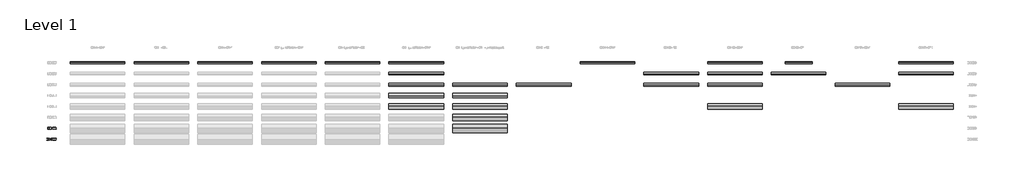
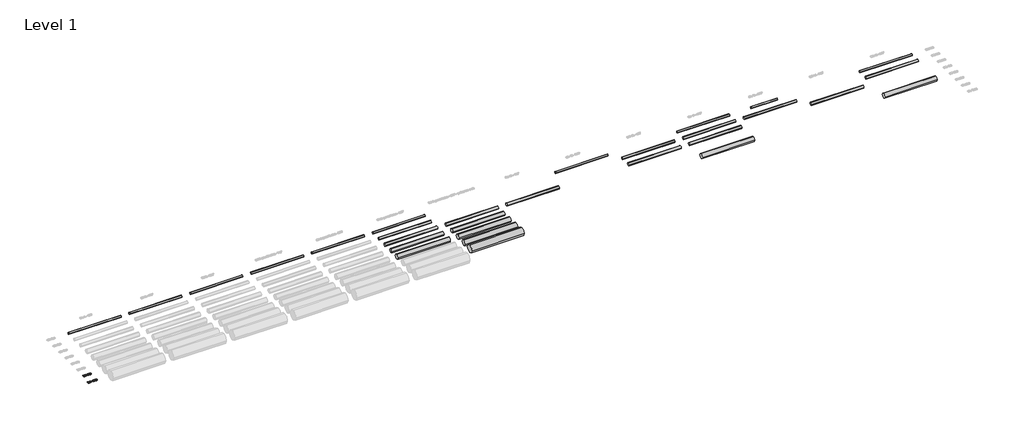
# One storey, part 2 of 10: 29 pipe segments, 2 proxies.
"""IFC4 building model written with IfcOpenShell, lengths in millimetres."""

from ifc_helpers import new_model, si_unit, point, frame, frame_2d, origin, origin_with_axes, place, context, project, spatial, polyline, circle_curve, trimmed, segment, composite_curve, outline, extrude, element, save

model = new_model("IFC4")

# Units and contexts
model_context = context("Model", 3, world=origin())
ifc_project = project(units=[si_unit("LENGTHUNIT", "METRE", prefix="MILLI")], contexts=[model_context])

# Site, building, storey
site = spatial("IfcSite", under=ifc_project)
building = spatial("IfcBuilding", under=site)
storey = spatial("IfcBuildingStorey", under=building, Name="Level 1", Elevation=0.0)

# Proxies
placement = place(None, origin())
element("IfcBuildingElementProxy", 1, Name="200mm Arial", ObjectType="200mm Arial", at=placement, inside=storey, context=model_context, shape_type="SweptSolid", body=[
    extrude(outline(polyline([(-19491.3116028, -6713.949573), (-19491.3116028, -6513.0369527), (-19422.0026349, -6513.0369527), (-19386.1464031, -6515.9309577), (-19370.1312736, -6521.5105013), (-19356.6177416, -6530.302881), (-19342.724065, -6545.606772), (-19332.8280393, -6564.6385338), (-19326.9051392, -6587.0302846), (-19324.9308391, -6612.4141423), (-19330.2773908, -6652.9547382), (-19344.0116519, -6682.2136195), (-19362.3567008, -6700.436041), (-19386.3671323, -6710.5160077), (-19418.6671715, -6713.949573), (-19491.3116028, -6713.949573)]), holes=[polyline([(-19466.1975253, -6688.8354954), (-19421.7573803, -6688.8354954), (-19389.4328156, -6685.2057264), (-19370.7934612, -6674.9540815), (-19362.0685265, -6664.0831685), (-19355.5140957, -6650.0116822), (-19351.4122114, -6632.6783089), (-19350.0449167, -6612.0217348), (-19352.7243239, -6584.6513144), (-19360.7625455, -6564.4423301), (-19372.6390025, -6550.5609162), (-19386.8331162, -6542.1732067), (-19422.4440933, -6538.1510302), (-19466.1975253, -6538.1510302), (-19466.1975253, -6688.8354954)])]), origin_with_axes(), (0.0, 0.0, 1.0), 50.0),
    extrude(outline(polyline([(-19290.3989825, -6713.949573), (-19290.3989825, -6513.0369527), (-19263.5190714, -6513.0369527), (-19158.5500754, -6672.2072292), (-19158.5500754, -6513.0369527), (-19133.4359979, -6513.0369527), (-19133.4359979, -6713.949573), (-19160.315909, -6713.949573), (-19265.284905, -6554.7302454), (-19265.284905, -6713.949573), (-19290.3989825, -6713.949573)])), origin_with_axes(), (0.0, 0.0, 1.0), 50.0),
    extrude(outline(polyline([(-18983.8306532, -6603.2906688), (-18997.2767401, -6596.6687929), (-19006.7129133, -6587.6924722), (-19012.2863255, -6576.5456478), (-19014.1441296, -6563.4122605), (-19010.0974277, -6543.7796247), (-18997.9573218, -6527.5560287), (-18979.0849755, -6516.6667217), (-18954.841552, -6513.0369527), (-18930.4509757, -6516.7525608), (-18911.3333747, -6527.8993853), (-18898.9725396, -6544.3804986), (-18894.8522613, -6564.0989736), (-18896.6855399, -6576.8092965), (-18902.1853757, -6587.7660486), (-18911.4130824, -6596.687187), (-18924.4299737, -6603.2906688), (-18908.9727985, -6611.255314), (-18897.7217409, -6622.9846183), (-18890.8607417, -6637.9144959), (-18888.5737419, -6655.4808612), (-18893.1109532, -6679.4912927), (-18906.722587, -6699.332395), (-18927.7409117, -6712.6497232), (-18954.4981955, -6717.0888326), (-18981.2554792, -6712.6313291), (-19002.2738039, -6699.2588186), (-19015.8854377, -6679.227644), (-19020.422649, -6654.7941481), (-19018.0436788, -6636.5472012), (-19010.906768, -6621.5376158), (-18999.3797989, -6610.2804267), (-18983.8306532, -6603.2906688)]), holes=[polyline([(-18995.3085714, -6653.9112313), (-18991.1147167, -6672.8203659), (-18985.3083125, -6680.9321639), (-18976.2768096, -6686.97156), (-18954.3019917, -6691.9747551), (-18937.2077417, -6689.3443988), (-18924.3809228, -6681.45333), (-18916.3610953, -6669.5032966), (-18913.6878195, -6654.6960463), (-18916.4469344, -6639.6374099), (-18924.7242793, -6627.4237277), (-18937.8454038, -6619.3303238), (-18955.1358576, -6616.6325225), (-18971.9909843, -6619.2935356), (-18984.6890445, -6627.2765749), (-18992.6536897, -6639.2572652), (-18995.3085714, -6653.9112313)]), polyline([(-18989.0300521, -6564.1480245), (-18986.804366, -6575.110908), (-18980.1273078, -6583.8664995), (-18969.1950812, -6589.6054586), (-18954.2038899, -6591.518445), (-18939.5621864, -6589.6177213), (-18928.7955067, -6583.9155504), (-18922.1736308, -6575.4542645), (-18919.9663388, -6565.276196), (-18922.2472072, -6554.7118513), (-18929.0898123, -6545.974654), (-18940.0036448, -6540.1069361), (-18954.4981955, -6538.1510302), (-18969.0847166, -6540.0640166), (-18979.980155, -6545.8029757), (-18986.7675778, -6554.2152106), (-18989.0300521, -6564.1480245)])]), origin_with_axes(), (0.0, 0.0, 1.0), 50.0),
    extrude(outline(polyline([(-18866.5989241, -6615.1119436), (-18864.7533827, -6582.9529258), (-18859.2167587, -6557.3054194), (-18850.0442343, -6537.7770168), (-18837.2909918, -6523.9753106), (-18820.8650607, -6515.7715422), (-18800.6744705, -6513.0369527), (-18785.1989013, -6514.6556334), (-18771.3420128, -6519.5116758), (-18759.7537299, -6527.4150073), (-18751.0839776, -6538.1755557), (-18739.3117537, -6567.9004209), (-18734.750017, -6615.1119436), (-18736.5771642, -6647.0870203), (-18742.058606, -6672.6732131), (-18751.1759481, -6692.2200098), (-18763.9107965, -6706.0768983), (-18780.3735158, -6714.335849), (-18800.6744705, -6717.0888326), (-18826.7695667, -6712.3063667), (-18846.5861435, -6697.9589689), (-18855.341735, -6682.8298218), (-18861.5957289, -6663.9789353), (-18866.5989241, -6615.1119436)]), holes=[polyline([(-18841.4848465, -6615.0628927), (-18838.5417906, -6654.5672876), (-18829.7126227, -6677.4311536), (-18816.5669727, -6688.3388547), (-18800.6744705, -6691.9747551), (-18784.7819683, -6688.326592), (-18771.6363184, -6677.3821026), (-18762.8071505, -6654.5059739), (-18759.8640945, -6615.0628927), (-18762.7090486, -6576.4475459), (-18771.2439109, -6553.4058703), (-18784.3650354, -6541.9647402), (-18800.9687761, -6538.1510302), (-18816.6896001, -6541.5110191), (-18829.3202152, -6551.5909857), (-18838.4436887, -6576.0674012), (-18841.4848465, -6615.0628927)])]), origin_with_axes(), (0.0, 0.0, 1.0), 50.0),
    extrude(outline(polyline([(-18712.7751992, -6615.1119436), (-18710.9296578, -6582.9529258), (-18705.3930338, -6557.3054194), (-18696.2205094, -6537.7770168), (-18683.4672669, -6523.9753106), (-18667.0413358, -6515.7715422), (-18646.8507456, -6513.0369527), (-18631.3751764, -6514.6556334), (-18617.5182879, -6519.5116758), (-18605.930005, -6527.4150073), (-18597.2602527, -6538.1755557), (-18585.4880288, -6567.9004209), (-18580.9262921, -6615.1119436), (-18582.7534393, -6647.0870203), (-18588.2348811, -6672.6732131), (-18597.3522232, -6692.2200098), (-18610.0870716, -6706.0768983), (-18626.5497909, -6714.335849), (-18646.8507456, -6717.0888326), (-18672.9458418, -6712.3063667), (-18692.7624186, -6697.9589689), (-18701.5180101, -6682.8298218), (-18707.772004, -6663.9789353), (-18712.7751992, -6615.1119436)]), holes=[polyline([(-18687.6611216, -6615.0628927), (-18684.7180657, -6654.5672876), (-18675.8888978, -6677.4311536), (-18662.7432478, -6688.3388547), (-18646.8507456, -6691.9747551), (-18630.9582434, -6688.326592), (-18617.8125935, -6677.3821026), (-18608.9834256, -6654.5059739), (-18606.0403696, -6615.0628927), (-18608.8853237, -6576.4475459), (-18617.420186, -6553.4058703), (-18630.5413105, -6541.9647402), (-18647.1450512, -6538.1510302), (-18662.8658751, -6541.5110191), (-18675.4964903, -6551.5909857), (-18684.6199638, -6576.0674012), (-18687.6611216, -6615.0628927)])]), origin_with_axes(), (0.0, 0.0, 1.0), 50.0),
])
element("IfcBuildingElementProxy", 2, Name="200mm Arial", ObjectType="200mm Arial", at=placement, inside=storey, context=model_context, shape_type="SweptSolid", body=[
    extrude(outline(polyline([(-19645.1353277, -7913.949573), (-19645.1353277, -7713.0369527), (-19575.8263598, -7713.0369527), (-19539.970128, -7715.9309577), (-19523.9549985, -7721.5105013), (-19510.4414666, -7730.302881), (-19496.5477899, -7745.606772), (-19486.6517642, -7764.6385338), (-19480.7288641, -7787.0302846), (-19478.754564, -7812.4141423), (-19484.1011157, -7852.9547382), (-19497.8353769, -7882.2136195), (-19516.1804257, -7900.436041), (-19540.1908572, -7910.5160077), (-19572.4908964, -7913.949573), (-19645.1353277, -7913.949573)]), holes=[polyline([(-19620.0212502, -7888.8354954), (-19575.5811052, -7888.8354954), (-19543.2565405, -7885.2057264), (-19524.6171861, -7874.9540815), (-19515.8922515, -7864.0831685), (-19509.3378206, -7850.0116822), (-19505.2359363, -7832.6783089), (-19503.8686416, -7812.0217348), (-19506.5480488, -7784.6513144), (-19514.5862704, -7764.4423301), (-19526.4627275, -7750.5609162), (-19540.6568411, -7742.1732067), (-19576.2678182, -7738.1510302), (-19620.0212502, -7738.1510302), (-19620.0212502, -7888.8354954)])]), origin_with_axes(), (0.0, 0.0, 1.0), 50.0),
    extrude(outline(polyline([(-19444.2227074, -7913.949573), (-19444.2227074, -7713.0369527), (-19417.3427963, -7713.0369527), (-19312.3738004, -7872.2072292), (-19312.3738004, -7713.0369527), (-19287.2597228, -7713.0369527), (-19287.2597228, -7913.949573), (-19314.1396339, -7913.949573), (-19419.1086299, -7754.7302454), (-19419.1086299, -7913.949573), (-19444.2227074, -7913.949573)])), origin_with_axes(), (0.0, 0.0, 1.0), 50.0),
    extrude(outline(polyline([(-19080.0685831, -7913.949573), (-19105.1826607, -7913.949573), (-19105.1826607, -7757.3789958), (-19128.972363, -7774.3260931), (-19155.4108157, -7787.0057592), (-19155.4108157, -7763.2651077), (-19118.5980908, -7739.769711), (-19105.1274784, -7726.1948653), (-19096.2553909, -7713.0369527), (-19080.0685831, -7713.0369527), (-19080.0685831, -7913.949573)])), origin_with_axes(), (0.0, 0.0, 1.0), 50.0),
    extrude(outline(polyline([(-19020.422649, -7815.1119436), (-19018.5771076, -7782.9529258), (-19013.0404836, -7757.3054194), (-19003.8679592, -7737.7770168), (-18991.1147167, -7723.9753106), (-18974.6887856, -7715.7715422), (-18954.4981955, -7713.0369527), (-18939.0226262, -7714.6556334), (-18925.1657377, -7719.5116758), (-18913.5774549, -7727.4150073), (-18904.9077025, -7738.1755557), (-18893.1354787, -7767.9004209), (-18888.5737419, -7815.1119436), (-18890.4008892, -7847.0870203), (-18895.8823309, -7872.6732131), (-18904.999673, -7892.2200098), (-18917.7345214, -7906.0768983), (-18934.1972407, -7914.335849), (-18954.4981955, -7917.0888326), (-18980.5932916, -7912.3063667), (-19000.4098684, -7897.9589689), (-19009.1654599, -7882.8298218), (-19015.4194539, -7863.9789353), (-19020.422649, -7815.1119436)]), holes=[polyline([(-18995.3085714, -7815.0628927), (-18992.3655155, -7854.5672876), (-18983.5363476, -7877.4311536), (-18970.3906976, -7888.3388547), (-18954.4981955, -7891.9747551), (-18938.6056933, -7888.326592), (-18925.4600433, -7877.3821026), (-18916.6308754, -7854.5059739), (-18913.6878195, -7815.0628927), (-18916.5327735, -7776.4475459), (-18925.0676358, -7753.4058703), (-18938.1887603, -7741.9647402), (-18954.792501, -7738.1510302), (-18970.513325, -7741.5110191), (-18983.1439401, -7751.5909857), (-18992.2674136, -7776.0674012), (-18995.3085714, -7815.0628927)])]), origin_with_axes(), (0.0, 0.0, 1.0), 50.0),
    extrude(outline(polyline([(-18866.5989241, -7815.1119436), (-18864.7533827, -7782.9529258), (-18859.2167587, -7757.3054194), (-18850.0442343, -7737.7770168), (-18837.2909918, -7723.9753106), (-18820.8650607, -7715.7715422), (-18800.6744705, -7713.0369527), (-18785.1989013, -7714.6556334), (-18771.3420128, -7719.5116758), (-18759.7537299, -7727.4150073), (-18751.0839776, -7738.1755557), (-18739.3117537, -7767.9004209), (-18734.750017, -7815.1119436), (-18736.5771642, -7847.0870203), (-18742.058606, -7872.6732131), (-18751.1759481, -7892.2200098), (-18763.9107965, -7906.0768983), (-18780.3735158, -7914.335849), (-18800.6744705, -7917.0888326), (-18826.7695667, -7912.3063667), (-18846.5861435, -7897.9589689), (-18855.341735, -7882.8298218), (-18861.5957289, -7863.9789353), (-18866.5989241, -7815.1119436)]), holes=[polyline([(-18841.4848465, -7815.0628927), (-18838.5417906, -7854.5672876), (-18829.7126227, -7877.4311536), (-18816.5669727, -7888.3388547), (-18800.6744705, -7891.9747551), (-18784.7819683, -7888.326592), (-18771.6363184, -7877.3821026), (-18762.8071505, -7854.5059739), (-18759.8640945, -7815.0628927), (-18762.7090486, -7776.4475459), (-18771.2439109, -7753.4058703), (-18784.3650354, -7741.9647402), (-18800.9687761, -7738.1510302), (-18816.6896001, -7741.5110191), (-18829.3202152, -7751.5909857), (-18838.4436887, -7776.0674012), (-18841.4848465, -7815.0628927)])]), origin_with_axes(), (0.0, 0.0, 1.0), 50.0),
    extrude(outline(polyline([(-18712.7751992, -7815.1119436), (-18710.9296578, -7782.9529258), (-18705.3930338, -7757.3054194), (-18696.2205094, -7737.7770168), (-18683.4672669, -7723.9753106), (-18667.0413358, -7715.7715422), (-18646.8507456, -7713.0369527), (-18631.3751764, -7714.6556334), (-18617.5182879, -7719.5116758), (-18605.930005, -7727.4150073), (-18597.2602527, -7738.1755557), (-18585.4880288, -7767.9004209), (-18580.9262921, -7815.1119436), (-18582.7534393, -7847.0870203), (-18588.2348811, -7872.6732131), (-18597.3522232, -7892.2200098), (-18610.0870716, -7906.0768983), (-18626.5497909, -7914.335849), (-18646.8507456, -7917.0888326), (-18672.9458418, -7912.3063667), (-18692.7624186, -7897.9589689), (-18701.5180101, -7882.8298218), (-18707.772004, -7863.9789353), (-18712.7751992, -7815.1119436)]), holes=[polyline([(-18687.6611216, -7815.0628927), (-18684.7180657, -7854.5672876), (-18675.8888978, -7877.4311536), (-18662.7432478, -7888.3388547), (-18646.8507456, -7891.9747551), (-18630.9582434, -7888.326592), (-18617.8125935, -7877.3821026), (-18608.9834256, -7854.5059739), (-18606.0403696, -7815.0628927), (-18608.8853237, -7776.4475459), (-18617.420186, -7753.4058703), (-18630.5413105, -7741.9647402), (-18647.1450512, -7738.1510302), (-18662.8658751, -7741.5110191), (-18675.4964903, -7751.5909857), (-18684.6199638, -7776.0674012), (-18687.6611216, -7815.0628927)])]), origin_with_axes(), (0.0, 0.0, 1.0), 50.0),
])

# Pipe segments
element("IfcPipeSegment", 3, ObjectType="Pipelife Pragma +ID® rura perforowana o podwójnej ściance SN 8 - perforacja 120°", at=placement, inside=storey, context=model_context, shape_type="SweptSolid", body=[
    extrude(outline(composite_curve([segment(trimmed(circle_curve(frame_2d((586.050427, 0.0)), 114.0), [point((472.050427, 0.0))], [point((586.050427, 114.0))], False, "CARTESIAN"), True, "CONTINUOUS"), segment(trimmed(circle_curve(frame_2d((586.050427, 0.0)), 114.0), [point((586.050427, 114.0))], [point((700.050427, 0.0))], False, "CARTESIAN"), True, "CONTINUOUS"), segment(trimmed(circle_curve(frame_2d((586.050427, 0.0)), 114.0), [point((700.050427, 0.0))], [point((586.050427, -114.0))], False, "CARTESIAN"), True, "CONTINUOUS"), segment(trimmed(circle_curve(frame_2d((586.050427, 0.0)), 114.0), [point((586.050427, -114.0))], [point((472.050427, 0.0))], False, "CARTESIAN"), True, "CONTINUOUS")], self_intersect=False)), frame((-17032.6671252, 0.0, 0.0), z_axis=(1.0, 0.0, 0.0), x_axis=(0.0, 1.0, 0.0)), (0.0, 0.0, 1.0), 6000.0),
])
element("IfcPipeSegment", 4, ObjectType="Pipelife Pragma +ID® rura perforowana o podwójnej ściance SN 8 - perforacja 220°", at=placement, inside=storey, context=model_context, shape_type="SweptSolid", body=[
    extrude(outline(composite_curve([segment(trimmed(circle_curve(frame_2d((586.050427, 0.0)), 114.0), [point((472.050427, 0.0))], [point((586.050427, 114.0))], False, "CARTESIAN"), True, "CONTINUOUS"), segment(trimmed(circle_curve(frame_2d((586.050427, 0.0)), 114.0), [point((586.050427, 114.0))], [point((700.050427, 0.0))], False, "CARTESIAN"), True, "CONTINUOUS"), segment(trimmed(circle_curve(frame_2d((586.050427, 0.0)), 114.0), [point((700.050427, 0.0))], [point((586.050427, -114.0))], False, "CARTESIAN"), True, "CONTINUOUS"), segment(trimmed(circle_curve(frame_2d((586.050427, 0.0)), 114.0), [point((586.050427, -114.0))], [point((472.050427, 0.0))], False, "CARTESIAN"), True, "CONTINUOUS")], self_intersect=False)), frame((-10032.6671252, 0.0, 0.0), z_axis=(1.0, 0.0, 0.0), x_axis=(0.0, 1.0, 0.0)), (0.0, 0.0, 1.0), 6000.0),
])
element("IfcPipeSegment", 5, ObjectType="Pipelife Pragma +ID® rura perforowana o podwójnej ściance SN 8 - perforacja 360°", at=placement, inside=storey, context=model_context, shape_type="SweptSolid", body=[
    extrude(outline(composite_curve([segment(trimmed(circle_curve(frame_2d((586.050427, 0.0)), 114.0), [point((472.050427, 0.0))], [point((586.050427, 114.0))], False, "CARTESIAN"), True, "CONTINUOUS"), segment(trimmed(circle_curve(frame_2d((586.050427, 0.0)), 114.0), [point((586.050427, 114.0))], [point((700.050427, 0.0))], False, "CARTESIAN"), True, "CONTINUOUS"), segment(trimmed(circle_curve(frame_2d((586.050427, 0.0)), 114.0), [point((700.050427, 0.0))], [point((586.050427, -114.0))], False, "CARTESIAN"), True, "CONTINUOUS"), segment(trimmed(circle_curve(frame_2d((586.050427, 0.0)), 114.0), [point((586.050427, -114.0))], [point((472.050427, 0.0))], False, "CARTESIAN"), True, "CONTINUOUS")], self_intersect=False)), frame((-3032.6671252, 0.0, 0.0), z_axis=(1.0, 0.0, 0.0), x_axis=(0.0, 1.0, 0.0)), (0.0, 0.0, 1.0), 6000.0),
])
element("IfcPipeSegment", 6, ObjectType="Pipelife Pragma +ID® rura perforowana o podwójnej ściance SN 8 w geowłókninie - perforacja 120°", at=placement, inside=storey, context=model_context, shape_type="SweptSolid", body=[
    extrude(outline(composite_curve([segment(trimmed(circle_curve(frame_2d((586.050427, 0.0)), 114.0), [point((472.050427, 0.0))], [point((586.050427, 114.0))], False, "CARTESIAN"), True, "CONTINUOUS"), segment(trimmed(circle_curve(frame_2d((586.050427, 0.0)), 114.0), [point((586.050427, 114.0))], [point((700.050427, 0.0))], False, "CARTESIAN"), True, "CONTINUOUS"), segment(trimmed(circle_curve(frame_2d((586.050427, 0.0)), 114.0), [point((700.050427, 0.0))], [point((586.050427, -114.0))], False, "CARTESIAN"), True, "CONTINUOUS"), segment(trimmed(circle_curve(frame_2d((586.050427, 0.0)), 114.0), [point((586.050427, -114.0))], [point((472.050427, 0.0))], False, "CARTESIAN"), True, "CONTINUOUS")], self_intersect=False)), frame((3967.3328748, 0.0, 0.0), z_axis=(1.0, 0.0, 0.0), x_axis=(0.0, 1.0, 0.0)), (0.0, 0.0, 1.0), 6000.0),
])
element("IfcPipeSegment", 7, ObjectType="Pipelife Pragma +ID® rura perforowana o podwójnej ściance SN 8 w geowłókninie - perforacja 220°", at=placement, inside=storey, context=model_context, shape_type="SweptSolid", body=[
    extrude(outline(composite_curve([segment(trimmed(circle_curve(frame_2d((586.050427, 0.0)), 114.0), [point((472.050427, 0.0))], [point((586.050427, 114.0))], False, "CARTESIAN"), True, "CONTINUOUS"), segment(trimmed(circle_curve(frame_2d((586.050427, 0.0)), 114.0), [point((586.050427, 114.0))], [point((700.050427, 0.0))], False, "CARTESIAN"), True, "CONTINUOUS"), segment(trimmed(circle_curve(frame_2d((586.050427, 0.0)), 114.0), [point((700.050427, 0.0))], [point((586.050427, -114.0))], False, "CARTESIAN"), True, "CONTINUOUS"), segment(trimmed(circle_curve(frame_2d((586.050427, 0.0)), 114.0), [point((586.050427, -114.0))], [point((472.050427, 0.0))], False, "CARTESIAN"), True, "CONTINUOUS")], self_intersect=False)), frame((10967.3328748, 0.0, 0.0), z_axis=(1.0, 0.0, 0.0), x_axis=(0.0, 1.0, 0.0)), (0.0, 0.0, 1.0), 6000.0),
])
element("IfcPipeSegment", 8, ObjectType="Pipelife Pragma +ID® rura perforowana o podwójnej ściance SN 8 w geowłókninie - perforacja 360°", at=placement, inside=storey, context=model_context, shape_type="SweptSolid", body=[
    extrude(outline(composite_curve([segment(trimmed(circle_curve(frame_2d((586.050427, 0.0)), 114.0), [point((472.050427, 0.0))], [point((586.050427, 114.0))], False, "CARTESIAN"), True, "CONTINUOUS"), segment(trimmed(circle_curve(frame_2d((586.050427, 0.0)), 114.0), [point((586.050427, 114.0))], [point((700.050427, 0.0))], False, "CARTESIAN"), True, "CONTINUOUS"), segment(trimmed(circle_curve(frame_2d((586.050427, 0.0)), 114.0), [point((700.050427, 0.0))], [point((586.050427, -114.0))], False, "CARTESIAN"), True, "CONTINUOUS"), segment(trimmed(circle_curve(frame_2d((586.050427, 0.0)), 114.0), [point((586.050427, -114.0))], [point((472.050427, 0.0))], False, "CARTESIAN"), True, "CONTINUOUS")], self_intersect=False)), frame((17967.3328748, 0.0, 0.0), z_axis=(1.0, 0.0, 0.0), x_axis=(0.0, 1.0, 0.0)), (0.0, 0.0, 1.0), 6000.0),
])
element("IfcPipeSegment", 9, ObjectType="Pipelife Pragma +ID® rura perforowana o podwójnej ściance SN 8 w geowłókninie - perforacja 360°", at=placement, inside=storey, context=model_context, shape_type="SweptSolid", body=[
    extrude(outline(composite_curve([segment(trimmed(circle_curve(frame_2d((-613.949573, 0.0)), 142.5), [point((-756.449573, 0.0))], [point((-613.949573, 142.5))], False, "CARTESIAN"), True, "CONTINUOUS"), segment(trimmed(circle_curve(frame_2d((-613.949573, 0.0)), 142.5), [point((-613.949573, 142.5))], [point((-471.449573, 0.0))], False, "CARTESIAN"), True, "CONTINUOUS"), segment(trimmed(circle_curve(frame_2d((-613.949573, 0.0)), 142.5), [point((-471.449573, 0.0))], [point((-613.949573, -142.5))], False, "CARTESIAN"), True, "CONTINUOUS"), segment(trimmed(circle_curve(frame_2d((-613.949573, 0.0)), 142.5), [point((-613.949573, -142.5))], [point((-756.449573, 0.0))], False, "CARTESIAN"), True, "CONTINUOUS")], self_intersect=False)), frame((17967.3328748, 0.0, 0.0), z_axis=(1.0, 0.0, 0.0), x_axis=(0.0, 1.0, 0.0)), (0.0, 0.0, 1.0), 6000.0),
])
element("IfcPipeSegment", 10, ObjectType="Pipelife Pragma +ID® rura perforowana o podwójnej ściance SN 8 w geowłókninie - perforacja 360°", at=placement, inside=storey, context=model_context, shape_type="SweptSolid", body=[
    extrude(outline(composite_curve([segment(trimmed(circle_curve(frame_2d((-1813.949573, 0.0)), 171.5), [point((-1985.449573, 0.0))], [point((-1813.949573, 171.5))], False, "CARTESIAN"), True, "CONTINUOUS"), segment(trimmed(circle_curve(frame_2d((-1813.949573, 0.0)), 171.5), [point((-1813.949573, 171.5))], [point((-1642.449573, 0.0))], False, "CARTESIAN"), True, "CONTINUOUS"), segment(trimmed(circle_curve(frame_2d((-1813.949573, 0.0)), 171.5), [point((-1642.449573, 0.0))], [point((-1813.949573, -171.5))], False, "CARTESIAN"), True, "CONTINUOUS"), segment(trimmed(circle_curve(frame_2d((-1813.949573, 0.0)), 171.5), [point((-1813.949573, -171.5))], [point((-1985.449573, 0.0))], False, "CARTESIAN"), True, "CONTINUOUS")], self_intersect=False)), frame((17967.3328748, 0.0, 0.0), z_axis=(1.0, 0.0, 0.0), x_axis=(0.0, 1.0, 0.0)), (0.0, 0.0, 1.0), 6000.0),
])
element("IfcPipeSegment", 11, ObjectType="Pipelife Pragma +ID® rura perforowana o podwójnej ściance SN 8 w geowłókninie - perforacja 360°", at=placement, inside=storey, context=model_context, shape_type="SweptSolid", body=[
    extrude(outline(composite_curve([segment(trimmed(circle_curve(frame_2d((-3013.949573, 0.0)), 229.0), [point((-3242.949573, 0.0))], [point((-3013.949573, 229.0))], False, "CARTESIAN"), True, "CONTINUOUS"), segment(trimmed(circle_curve(frame_2d((-3013.949573, 0.0)), 229.0), [point((-3013.949573, 229.0))], [point((-2784.949573, 0.0))], False, "CARTESIAN"), True, "CONTINUOUS"), segment(trimmed(circle_curve(frame_2d((-3013.949573, 0.0)), 229.0), [point((-2784.949573, 0.0))], [point((-3013.949573, -229.0))], False, "CARTESIAN"), True, "CONTINUOUS"), segment(trimmed(circle_curve(frame_2d((-3013.949573, 0.0)), 229.0), [point((-3013.949573, -229.0))], [point((-3242.949573, 0.0))], False, "CARTESIAN"), True, "CONTINUOUS")], self_intersect=False)), frame((17967.3328748, 0.0, 0.0), z_axis=(1.0, 0.0, 0.0), x_axis=(0.0, 1.0, 0.0)), (0.0, 0.0, 1.0), 6000.0),
])
element("IfcPipeSegment", 12, ObjectType="Pipelife Pragma +ID® rura perforowana o podwójnej ściance SN 8 w geowłókninie - perforacja 360°", at=placement, inside=storey, context=model_context, shape_type="SweptSolid", body=[
    extrude(outline(composite_curve([segment(trimmed(circle_curve(frame_2d((-4213.949573, 0.0)), 286.5), [point((-4500.449573, 0.0))], [point((-4213.949573, 286.5))], False, "CARTESIAN"), True, "CONTINUOUS"), segment(trimmed(circle_curve(frame_2d((-4213.949573, 0.0)), 286.5), [point((-4213.949573, 286.5))], [point((-3927.449573, 0.0))], False, "CARTESIAN"), True, "CONTINUOUS"), segment(trimmed(circle_curve(frame_2d((-4213.949573, 0.0)), 286.5), [point((-3927.449573, 0.0))], [point((-4213.949573, -286.5))], False, "CARTESIAN"), True, "CONTINUOUS"), segment(trimmed(circle_curve(frame_2d((-4213.949573, 0.0)), 286.5), [point((-4213.949573, -286.5))], [point((-4500.449573, 0.0))], False, "CARTESIAN"), True, "CONTINUOUS")], self_intersect=False)), frame((17967.3328748, 0.0, 0.0), z_axis=(1.0, 0.0, 0.0), x_axis=(0.0, 1.0, 0.0)), (0.0, 0.0, 1.0), 6000.0),
])
element("IfcPipeSegment", 13, ObjectType="Pipelife Pragma +ID® rura o podwyższonej perforacji o podwójnej ściance SN 8 w geowłókninie - perforacja 360°", at=placement, inside=storey, context=model_context, shape_type="SweptSolid", body=[
    extrude(outline(composite_curve([segment(trimmed(circle_curve(frame_2d((-1813.949573, 0.0)), 171.5), [point((-1985.449573, 0.0))], [point((-1813.949573, 171.5))], False, "CARTESIAN"), True, "CONTINUOUS"), segment(trimmed(circle_curve(frame_2d((-1813.949573, 0.0)), 171.5), [point((-1813.949573, 171.5))], [point((-1642.449573, 0.0))], False, "CARTESIAN"), True, "CONTINUOUS"), segment(trimmed(circle_curve(frame_2d((-1813.949573, 0.0)), 171.5), [point((-1642.449573, 0.0))], [point((-1813.949573, -171.5))], False, "CARTESIAN"), True, "CONTINUOUS"), segment(trimmed(circle_curve(frame_2d((-1813.949573, 0.0)), 171.5), [point((-1813.949573, -171.5))], [point((-1985.449573, 0.0))], False, "CARTESIAN"), True, "CONTINUOUS")], self_intersect=False)), frame((24967.3328748, 0.0, 0.0), z_axis=(1.0, 0.0, 0.0), x_axis=(0.0, 1.0, 0.0)), (0.0, 0.0, 1.0), 6000.0),
])
element("IfcPipeSegment", 14, ObjectType="Pipelife Pragma +ID® rura o podwyższonej perforacji o podwójnej ściance SN 8 w geowłókninie - perforacja 360°", at=placement, inside=storey, context=model_context, shape_type="SweptSolid", body=[
    extrude(outline(composite_curve([segment(trimmed(circle_curve(frame_2d((-3013.949573, 0.0)), 229.0), [point((-3242.949573, 0.0))], [point((-3013.949573, 229.0))], False, "CARTESIAN"), True, "CONTINUOUS"), segment(trimmed(circle_curve(frame_2d((-3013.949573, 0.0)), 229.0), [point((-3013.949573, 229.0))], [point((-2784.949573, 0.0))], False, "CARTESIAN"), True, "CONTINUOUS"), segment(trimmed(circle_curve(frame_2d((-3013.949573, 0.0)), 229.0), [point((-2784.949573, 0.0))], [point((-3013.949573, -229.0))], False, "CARTESIAN"), True, "CONTINUOUS"), segment(trimmed(circle_curve(frame_2d((-3013.949573, 0.0)), 229.0), [point((-3013.949573, -229.0))], [point((-3242.949573, 0.0))], False, "CARTESIAN"), True, "CONTINUOUS")], self_intersect=False)), frame((24967.3328748, 0.0, 0.0), z_axis=(1.0, 0.0, 0.0), x_axis=(0.0, 1.0, 0.0)), (0.0, 0.0, 1.0), 6000.0),
])
element("IfcPipeSegment", 15, ObjectType="Pipelife Pragma +ID® rura o podwyższonej perforacji o podwójnej ściance SN 8 w geowłókninie - perforacja 360°", at=placement, inside=storey, context=model_context, shape_type="SweptSolid", body=[
    extrude(outline(composite_curve([segment(trimmed(circle_curve(frame_2d((-4213.949573, 0.0)), 286.5), [point((-4500.449573, 0.0))], [point((-4213.949573, 286.5))], False, "CARTESIAN"), True, "CONTINUOUS"), segment(trimmed(circle_curve(frame_2d((-4213.949573, 0.0)), 286.5), [point((-4213.949573, 286.5))], [point((-3927.449573, 0.0))], False, "CARTESIAN"), True, "CONTINUOUS"), segment(trimmed(circle_curve(frame_2d((-4213.949573, 0.0)), 286.5), [point((-3927.449573, 0.0))], [point((-4213.949573, -286.5))], False, "CARTESIAN"), True, "CONTINUOUS"), segment(trimmed(circle_curve(frame_2d((-4213.949573, 0.0)), 286.5), [point((-4213.949573, -286.5))], [point((-4500.449573, 0.0))], False, "CARTESIAN"), True, "CONTINUOUS")], self_intersect=False)), frame((24967.3328748, 0.0, 0.0), z_axis=(1.0, 0.0, 0.0), x_axis=(0.0, 1.0, 0.0)), (0.0, 0.0, 1.0), 6000.0),
])
element("IfcPipeSegment", 16, ObjectType="Pipelife Pragma +ID® rura o podwyższonej perforacji o podwójnej ściance SN 8 w geowłókninie - perforacja 360°", at=placement, inside=storey, context=model_context, shape_type="SweptSolid", body=[
    extrude(outline(composite_curve([segment(trimmed(circle_curve(frame_2d((-5413.949573, 0.0)), 344.0), [point((-5757.949573, 0.0))], [point((-5413.949573, 344.0))], False, "CARTESIAN"), True, "CONTINUOUS"), segment(trimmed(circle_curve(frame_2d((-5413.949573, 0.0)), 344.0), [point((-5413.949573, 344.0))], [point((-5069.949573, 0.0))], False, "CARTESIAN"), True, "CONTINUOUS"), segment(trimmed(circle_curve(frame_2d((-5413.949573, 0.0)), 344.0), [point((-5069.949573, 0.0))], [point((-5413.949573, -344.0))], False, "CARTESIAN"), True, "CONTINUOUS"), segment(trimmed(circle_curve(frame_2d((-5413.949573, 0.0)), 344.0), [point((-5413.949573, -344.0))], [point((-5757.949573, 0.0))], False, "CARTESIAN"), True, "CONTINUOUS")], self_intersect=False)), frame((24967.3328748, 0.0, 0.0), z_axis=(1.0, 0.0, 0.0), x_axis=(0.0, 1.0, 0.0)), (0.0, 0.0, 1.0), 6000.0),
])
element("IfcPipeSegment", 17, ObjectType="Pipelife Pragma +ID® rura o podwyższonej perforacji o podwójnej ściance SN 8 w geowłókninie - perforacja 360°", at=placement, inside=storey, context=model_context, shape_type="SweptSolid", body=[
    extrude(outline(composite_curve([segment(trimmed(circle_curve(frame_2d((-6613.949573, 0.0)), 462.5), [point((-7076.449573, 0.0))], [point((-6613.949573, 462.5))], False, "CARTESIAN"), True, "CONTINUOUS"), segment(trimmed(circle_curve(frame_2d((-6613.949573, 0.0)), 462.5), [point((-6613.949573, 462.5))], [point((-6151.449573, 0.0))], False, "CARTESIAN"), True, "CONTINUOUS"), segment(trimmed(circle_curve(frame_2d((-6613.949573, 0.0)), 462.5), [point((-6151.449573, 0.0))], [point((-6613.949573, -462.5))], False, "CARTESIAN"), True, "CONTINUOUS"), segment(trimmed(circle_curve(frame_2d((-6613.949573, 0.0)), 462.5), [point((-6613.949573, -462.5))], [point((-7076.449573, 0.0))], False, "CARTESIAN"), True, "CONTINUOUS")], self_intersect=False)), frame((24967.3328748, 0.0, 0.0), z_axis=(1.0, 0.0, 0.0), x_axis=(0.0, 1.0, 0.0)), (0.0, 0.0, 1.0), 6000.0),
])
element("IfcPipeSegment", 18, ObjectType="Pipelife Pragma +ID® rura perforowana o podwójnej ściance SN 10 - perforacja 120°", at=placement, inside=storey, context=model_context, shape_type="SweptSolid", body=[
    extrude(outline(composite_curve([segment(trimmed(circle_curve(frame_2d((-1813.949573, 0.0)), 171.5), [point((-1985.449573, 0.0))], [point((-1813.949573, 171.5))], False, "CARTESIAN"), True, "CONTINUOUS"), segment(trimmed(circle_curve(frame_2d((-1813.949573, 0.0)), 171.5), [point((-1813.949573, 171.5))], [point((-1642.449573, 0.0))], False, "CARTESIAN"), True, "CONTINUOUS"), segment(trimmed(circle_curve(frame_2d((-1813.949573, 0.0)), 171.5), [point((-1642.449573, 0.0))], [point((-1813.949573, -171.5))], False, "CARTESIAN"), True, "CONTINUOUS"), segment(trimmed(circle_curve(frame_2d((-1813.949573, 0.0)), 171.5), [point((-1813.949573, -171.5))], [point((-1985.449573, 0.0))], False, "CARTESIAN"), True, "CONTINUOUS")], self_intersect=False)), frame((31967.3328748, 0.0, 0.0), z_axis=(1.0, 0.0, 0.0), x_axis=(0.0, 1.0, 0.0)), (0.0, 0.0, 1.0), 6000.0),
])
element("IfcPipeSegment", 19, ObjectType="Pipelife Pragma +ID® rura perforowana o podwójnej ściance SN 10 - perforacja 360°", at=placement, inside=storey, context=model_context, shape_type="SweptSolid", body=[
    extrude(outline(composite_curve([segment(trimmed(circle_curve(frame_2d((586.050427, 0.0)), 114.0), [point((472.050427, 0.0))], [point((586.050427, 114.0))], False, "CARTESIAN"), True, "CONTINUOUS"), segment(trimmed(circle_curve(frame_2d((586.050427, 0.0)), 114.0), [point((586.050427, 114.0))], [point((700.050427, 0.0))], False, "CARTESIAN"), True, "CONTINUOUS"), segment(trimmed(circle_curve(frame_2d((586.050427, 0.0)), 114.0), [point((700.050427, 0.0))], [point((586.050427, -114.0))], False, "CARTESIAN"), True, "CONTINUOUS"), segment(trimmed(circle_curve(frame_2d((586.050427, 0.0)), 114.0), [point((586.050427, -114.0))], [point((472.050427, 0.0))], False, "CARTESIAN"), True, "CONTINUOUS")], self_intersect=False)), frame((38967.3328748, 0.0, 0.0), z_axis=(1.0, 0.0, 0.0), x_axis=(0.0, 1.0, 0.0)), (0.0, 0.0, 1.0), 6000.0),
])
element("IfcPipeSegment", 20, ObjectType="Pipelife Pragma +ID® rura perforowana o podwójnej ściance SN 12 - perforacja 120°", at=placement, inside=storey, context=model_context, shape_type="SweptSolid", body=[
    extrude(outline(composite_curve([segment(trimmed(circle_curve(frame_2d((-613.949573, 0.0)), 142.5), [point((-756.449573, 0.0))], [point((-613.949573, 142.5))], False, "CARTESIAN"), True, "CONTINUOUS"), segment(trimmed(circle_curve(frame_2d((-613.949573, 0.0)), 142.5), [point((-613.949573, 142.5))], [point((-471.449573, 0.0))], False, "CARTESIAN"), True, "CONTINUOUS"), segment(trimmed(circle_curve(frame_2d((-613.949573, 0.0)), 142.5), [point((-471.449573, 0.0))], [point((-613.949573, -142.5))], False, "CARTESIAN"), True, "CONTINUOUS"), segment(trimmed(circle_curve(frame_2d((-613.949573, 0.0)), 142.5), [point((-613.949573, -142.5))], [point((-756.449573, 0.0))], False, "CARTESIAN"), True, "CONTINUOUS")], self_intersect=False)), frame((45967.3328748, 0.0, 0.0), z_axis=(1.0, 0.0, 0.0), x_axis=(0.0, 1.0, 0.0)), (0.0, 0.0, 1.0), 6000.0),
])
element("IfcPipeSegment", 21, ObjectType="Pipelife Pragma +ID® rura perforowana o podwójnej ściance SN 12 - perforacja 120°", at=placement, inside=storey, context=model_context, shape_type="SweptSolid", body=[
    extrude(outline(composite_curve([segment(trimmed(circle_curve(frame_2d((-1813.949573, 0.0)), 171.5), [point((-1985.449573, 0.0))], [point((-1813.949573, 171.5))], False, "CARTESIAN"), True, "CONTINUOUS"), segment(trimmed(circle_curve(frame_2d((-1813.949573, 0.0)), 171.5), [point((-1813.949573, 171.5))], [point((-1642.449573, 0.0))], False, "CARTESIAN"), True, "CONTINUOUS"), segment(trimmed(circle_curve(frame_2d((-1813.949573, 0.0)), 171.5), [point((-1642.449573, 0.0))], [point((-1813.949573, -171.5))], False, "CARTESIAN"), True, "CONTINUOUS"), segment(trimmed(circle_curve(frame_2d((-1813.949573, 0.0)), 171.5), [point((-1813.949573, -171.5))], [point((-1985.449573, 0.0))], False, "CARTESIAN"), True, "CONTINUOUS")], self_intersect=False)), frame((45967.3328748, 0.0, 0.0), z_axis=(1.0, 0.0, 0.0), x_axis=(0.0, 1.0, 0.0)), (0.0, 0.0, 1.0), 6000.0),
])
element("IfcPipeSegment", 22, ObjectType="Pipelife Pragma +ID® rura perforowana o podwójnej ściance SN 12 - perforacja 220°", at=placement, inside=storey, context=model_context, shape_type="SweptSolid", body=[
    extrude(outline(composite_curve([segment(trimmed(circle_curve(frame_2d((586.050427, 0.0)), 114.0), [point((472.050427, 0.0))], [point((586.050427, 114.0))], False, "CARTESIAN"), True, "CONTINUOUS"), segment(trimmed(circle_curve(frame_2d((586.050427, 0.0)), 114.0), [point((586.050427, 114.0))], [point((700.050427, 0.0))], False, "CARTESIAN"), True, "CONTINUOUS"), segment(trimmed(circle_curve(frame_2d((586.050427, 0.0)), 114.0), [point((700.050427, 0.0))], [point((586.050427, -114.0))], False, "CARTESIAN"), True, "CONTINUOUS"), segment(trimmed(circle_curve(frame_2d((586.050427, 0.0)), 114.0), [point((586.050427, -114.0))], [point((472.050427, 0.0))], False, "CARTESIAN"), True, "CONTINUOUS")], self_intersect=False)), frame((52967.3328748, 0.0, 0.0), z_axis=(1.0, 0.0, 0.0), x_axis=(0.0, 1.0, 0.0)), (0.0, 0.0, 1.0), 6000.0),
])
element("IfcPipeSegment", 23, ObjectType="Pipelife Pragma +ID® rura perforowana o podwójnej ściance SN 12 - perforacja 220°", at=placement, inside=storey, context=model_context, shape_type="SweptSolid", body=[
    extrude(outline(composite_curve([segment(trimmed(circle_curve(frame_2d((-613.949573, 0.0)), 142.5), [point((-756.449573, 0.0))], [point((-613.949573, 142.5))], False, "CARTESIAN"), True, "CONTINUOUS"), segment(trimmed(circle_curve(frame_2d((-613.949573, 0.0)), 142.5), [point((-613.949573, 142.5))], [point((-471.449573, 0.0))], False, "CARTESIAN"), True, "CONTINUOUS"), segment(trimmed(circle_curve(frame_2d((-613.949573, 0.0)), 142.5), [point((-471.449573, 0.0))], [point((-613.949573, -142.5))], False, "CARTESIAN"), True, "CONTINUOUS"), segment(trimmed(circle_curve(frame_2d((-613.949573, 0.0)), 142.5), [point((-613.949573, -142.5))], [point((-756.449573, 0.0))], False, "CARTESIAN"), True, "CONTINUOUS")], self_intersect=False)), frame((52967.3328748, 0.0, 0.0), z_axis=(1.0, 0.0, 0.0), x_axis=(0.0, 1.0, 0.0)), (0.0, 0.0, 1.0), 6000.0),
])
element("IfcPipeSegment", 24, ObjectType="Pipelife Pragma +ID® rura perforowana o podwójnej ściance SN 12 - perforacja 220°", at=placement, inside=storey, context=model_context, shape_type="SweptSolid", body=[
    extrude(outline(composite_curve([segment(trimmed(circle_curve(frame_2d((-1813.949573, 0.0)), 171.5), [point((-1985.449573, 0.0))], [point((-1813.949573, 171.5))], False, "CARTESIAN"), True, "CONTINUOUS"), segment(trimmed(circle_curve(frame_2d((-1813.949573, 0.0)), 171.5), [point((-1813.949573, 171.5))], [point((-1642.449573, 0.0))], False, "CARTESIAN"), True, "CONTINUOUS"), segment(trimmed(circle_curve(frame_2d((-1813.949573, 0.0)), 171.5), [point((-1642.449573, 0.0))], [point((-1813.949573, -171.5))], False, "CARTESIAN"), True, "CONTINUOUS"), segment(trimmed(circle_curve(frame_2d((-1813.949573, 0.0)), 171.5), [point((-1813.949573, -171.5))], [point((-1985.449573, 0.0))], False, "CARTESIAN"), True, "CONTINUOUS")], self_intersect=False)), frame((52967.3328748, 0.0, 0.0), z_axis=(1.0, 0.0, 0.0), x_axis=(0.0, 1.0, 0.0)), (0.0, 0.0, 1.0), 6000.0),
])
element("IfcPipeSegment", 25, ObjectType="Pipelife Pragma +ID® rura perforowana o podwójnej ściance SN 12 - perforacja 220°", at=placement, inside=storey, context=model_context, shape_type="SweptSolid", body=[
    extrude(outline(composite_curve([segment(trimmed(circle_curve(frame_2d((-4213.949573, 0.0)), 286.5), [point((-4500.449573, 0.0))], [point((-4213.949573, 286.5))], False, "CARTESIAN"), True, "CONTINUOUS"), segment(trimmed(circle_curve(frame_2d((-4213.949573, 0.0)), 286.5), [point((-4213.949573, 286.5))], [point((-3927.449573, 0.0))], False, "CARTESIAN"), True, "CONTINUOUS"), segment(trimmed(circle_curve(frame_2d((-4213.949573, 0.0)), 286.5), [point((-3927.449573, 0.0))], [point((-4213.949573, -286.5))], False, "CARTESIAN"), True, "CONTINUOUS"), segment(trimmed(circle_curve(frame_2d((-4213.949573, 0.0)), 286.5), [point((-4213.949573, -286.5))], [point((-4500.449573, 0.0))], False, "CARTESIAN"), True, "CONTINUOUS")], self_intersect=False)), frame((52967.3328748, 0.0, 0.0), z_axis=(1.0, 0.0, 0.0), x_axis=(0.0, 1.0, 0.0)), (0.0, 0.0, 1.0), 6000.0),
])
element("IfcPipeSegment", 26, ObjectType="Pipelife Pragma +ID® rura perforowana o podwójnej ściance SN 12 - perforacja 360°", at=placement, inside=storey, context=model_context, shape_type="SweptSolid", body=[
    extrude(outline(composite_curve([segment(trimmed(circle_curve(frame_2d((586.050427, 0.0)), 114.0), [point((472.050427, 0.0))], [point((586.050427, 114.0))], False, "CARTESIAN"), True, "CONTINUOUS"), segment(trimmed(circle_curve(frame_2d((586.050427, 0.0)), 114.0), [point((586.050427, 114.0))], [point((700.050427, 0.0))], False, "CARTESIAN"), True, "CONTINUOUS"), segment(trimmed(circle_curve(frame_2d((586.050427, 0.0)), 114.0), [point((700.050427, 0.0))], [point((586.050427, -114.0))], False, "CARTESIAN"), True, "CONTINUOUS"), segment(trimmed(circle_curve(frame_2d((586.050427, 0.0)), 114.0), [point((586.050427, -114.0))], [point((472.050427, 0.0))], False, "CARTESIAN"), True, "CONTINUOUS")], self_intersect=False)), frame((61467.3328748, 0.0, 0.0), z_axis=(1.0, 0.0, 0.0), x_axis=(0.0, 1.0, 0.0)), (0.0, 0.0, 1.0), 3000.0),
])
element("IfcPipeSegment", 27, ObjectType="Pipelife Pragma +ID® rura perforowana o podwójnej ściance SN 12 - perforacja 360°", at=placement, inside=storey, context=model_context, shape_type="SweptSolid", body=[
    extrude(outline(composite_curve([segment(trimmed(circle_curve(frame_2d((-613.949573, 0.0)), 142.5), [point((-756.449573, 0.0))], [point((-613.949573, 142.5))], False, "CARTESIAN"), True, "CONTINUOUS"), segment(trimmed(circle_curve(frame_2d((-613.949573, 0.0)), 142.5), [point((-613.949573, 142.5))], [point((-471.449573, 0.0))], False, "CARTESIAN"), True, "CONTINUOUS"), segment(trimmed(circle_curve(frame_2d((-613.949573, 0.0)), 142.5), [point((-471.449573, 0.0))], [point((-613.949573, -142.5))], False, "CARTESIAN"), True, "CONTINUOUS"), segment(trimmed(circle_curve(frame_2d((-613.949573, 0.0)), 142.5), [point((-613.949573, -142.5))], [point((-756.449573, 0.0))], False, "CARTESIAN"), True, "CONTINUOUS")], self_intersect=False)), frame((59967.3328748, 0.0, 0.0), z_axis=(1.0, 0.0, 0.0), x_axis=(0.0, 1.0, 0.0)), (0.0, 0.0, 1.0), 6000.0),
])
element("IfcPipeSegment", 28, ObjectType="Pipelife Pragma +ID® rura perforowana o podwójnej ściance SN 16 - perforacja 220°", at=placement, inside=storey, context=model_context, shape_type="SweptSolid", body=[
    extrude(outline(composite_curve([segment(trimmed(circle_curve(frame_2d((-1813.949573, 0.0)), 171.5), [point((-1985.449573, 0.0))], [point((-1813.949573, 171.5))], False, "CARTESIAN"), True, "CONTINUOUS"), segment(trimmed(circle_curve(frame_2d((-1813.949573, 0.0)), 171.5), [point((-1813.949573, 171.5))], [point((-1642.449573, 0.0))], False, "CARTESIAN"), True, "CONTINUOUS"), segment(trimmed(circle_curve(frame_2d((-1813.949573, 0.0)), 171.5), [point((-1642.449573, 0.0))], [point((-1813.949573, -171.5))], False, "CARTESIAN"), True, "CONTINUOUS"), segment(trimmed(circle_curve(frame_2d((-1813.949573, 0.0)), 171.5), [point((-1813.949573, -171.5))], [point((-1985.449573, 0.0))], False, "CARTESIAN"), True, "CONTINUOUS")], self_intersect=False)), frame((66967.3328748, 0.0, 0.0), z_axis=(1.0, 0.0, 0.0), x_axis=(0.0, 1.0, 0.0)), (0.0, 0.0, 1.0), 6000.0),
])
element("IfcPipeSegment", 29, ObjectType="Pipelife Pragma +ID® rura perforowana o podwójnej ściance SN 16 - perforacja 360°", at=placement, inside=storey, context=model_context, shape_type="SweptSolid", body=[
    extrude(outline(composite_curve([segment(trimmed(circle_curve(frame_2d((586.050427, 0.0)), 114.0), [point((472.050427, 0.0))], [point((586.050427, 114.0))], False, "CARTESIAN"), True, "CONTINUOUS"), segment(trimmed(circle_curve(frame_2d((586.050427, 0.0)), 114.0), [point((586.050427, 114.0))], [point((700.050427, 0.0))], False, "CARTESIAN"), True, "CONTINUOUS"), segment(trimmed(circle_curve(frame_2d((586.050427, 0.0)), 114.0), [point((700.050427, 0.0))], [point((586.050427, -114.0))], False, "CARTESIAN"), True, "CONTINUOUS"), segment(trimmed(circle_curve(frame_2d((586.050427, 0.0)), 114.0), [point((586.050427, -114.0))], [point((472.050427, 0.0))], False, "CARTESIAN"), True, "CONTINUOUS")], self_intersect=False)), frame((73967.3328748, 0.0, 0.0), z_axis=(1.0, 0.0, 0.0), x_axis=(0.0, 1.0, 0.0)), (0.0, 0.0, 1.0), 6000.0),
])
element("IfcPipeSegment", 30, ObjectType="Pipelife Pragma +ID® rura perforowana o podwójnej ściance SN 16 - perforacja 360°", at=placement, inside=storey, context=model_context, shape_type="SweptSolid", body=[
    extrude(outline(composite_curve([segment(trimmed(circle_curve(frame_2d((-613.949573, 0.0)), 142.5), [point((-756.449573, 0.0))], [point((-613.949573, 142.5))], False, "CARTESIAN"), True, "CONTINUOUS"), segment(trimmed(circle_curve(frame_2d((-613.949573, 0.0)), 142.5), [point((-613.949573, 142.5))], [point((-471.449573, 0.0))], False, "CARTESIAN"), True, "CONTINUOUS"), segment(trimmed(circle_curve(frame_2d((-613.949573, 0.0)), 142.5), [point((-471.449573, 0.0))], [point((-613.949573, -142.5))], False, "CARTESIAN"), True, "CONTINUOUS"), segment(trimmed(circle_curve(frame_2d((-613.949573, 0.0)), 142.5), [point((-613.949573, -142.5))], [point((-756.449573, 0.0))], False, "CARTESIAN"), True, "CONTINUOUS")], self_intersect=False)), frame((73967.3328748, 0.0, 0.0), z_axis=(1.0, 0.0, 0.0), x_axis=(0.0, 1.0, 0.0)), (0.0, 0.0, 1.0), 6000.0),
])
element("IfcPipeSegment", 31, ObjectType="Pipelife Pragma +ID® rura perforowana o podwójnej ściance SN 16 - perforacja 360°", at=placement, inside=storey, context=model_context, shape_type="SweptSolid", body=[
    extrude(outline(composite_curve([segment(trimmed(circle_curve(frame_2d((-4213.949573, 0.0)), 286.5), [point((-4500.449573, 0.0))], [point((-4213.949573, 286.5))], False, "CARTESIAN"), True, "CONTINUOUS"), segment(trimmed(circle_curve(frame_2d((-4213.949573, 0.0)), 286.5), [point((-4213.949573, 286.5))], [point((-3927.449573, 0.0))], False, "CARTESIAN"), True, "CONTINUOUS"), segment(trimmed(circle_curve(frame_2d((-4213.949573, 0.0)), 286.5), [point((-3927.449573, 0.0))], [point((-4213.949573, -286.5))], False, "CARTESIAN"), True, "CONTINUOUS"), segment(trimmed(circle_curve(frame_2d((-4213.949573, 0.0)), 286.5), [point((-4213.949573, -286.5))], [point((-4500.449573, 0.0))], False, "CARTESIAN"), True, "CONTINUOUS")], self_intersect=False)), frame((73967.3328748, 0.0, 0.0), z_axis=(1.0, 0.0, 0.0), x_axis=(0.0, 1.0, 0.0)), (0.0, 0.0, 1.0), 6000.0),
])

save(model, "model.ifc")
